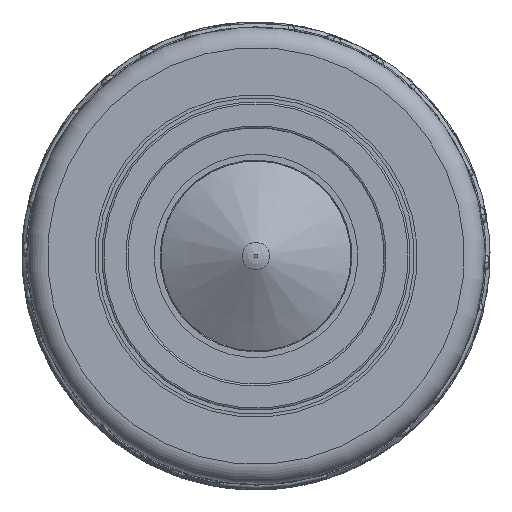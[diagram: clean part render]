
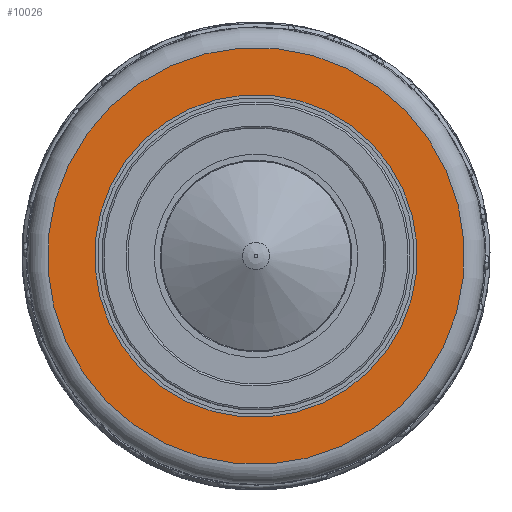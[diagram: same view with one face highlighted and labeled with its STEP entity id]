
A CAD part, front view. The second image highlights one B-rep face of the part: STEP entity #10026.
In plain terms, the highlighted planar face has unit normal (0, -1, 0).
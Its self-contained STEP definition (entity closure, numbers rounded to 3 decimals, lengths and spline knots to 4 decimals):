
#1914=FACE_BOUND('',#3121,.T.);
#2471=FACE_OUTER_BOUND('',#3120,.T.);
#3120=EDGE_LOOP('',(#8604));
#3121=EDGE_LOOP('',(#8605));
#3622=CIRCLE('',#10916,5.12);
#3623=CIRCLE('',#10917,3.965);
#4542=VERTEX_POINT('',#62511);
#4543=VERTEX_POINT('',#62513);
#5933=EDGE_CURVE('',#4542,#4542,#3622,.T.);
#5934=EDGE_CURVE('',#4543,#4543,#3623,.T.);
#8604=ORIENTED_EDGE('',*,*,#5933,.F.);
#8605=ORIENTED_EDGE('',*,*,#5934,.T.);
#8921=PLANE('',#10915);
#10026=ADVANCED_FACE('',(#2471,#1914),#8921,.T.);
#10915=AXIS2_PLACEMENT_3D('',#62510,#13226,#13227);
#10916=AXIS2_PLACEMENT_3D('',#62512,#13228,#13229);
#10917=AXIS2_PLACEMENT_3D('',#62514,#13230,#13231);
#13226=DIRECTION('center_axis',(0.,-1.,0.));
#13227=DIRECTION('ref_axis',(-0.562,0.,0.827));
#13228=DIRECTION('center_axis',(0.,1.,0.));
#13229=DIRECTION('ref_axis',(-0.827,0.,-0.562));
#13230=DIRECTION('center_axis',(0.,1.,0.));
#13231=DIRECTION('ref_axis',(-0.827,0.,-0.562));
#62510=CARTESIAN_POINT('Origin',(4.235,-5.9901,2.8774));
#62511=CARTESIAN_POINT('',(4.235,-5.9901,2.8774));
#62512=CARTESIAN_POINT('Origin',(0.,-5.9901,
0.));
#62513=CARTESIAN_POINT('',(3.2796,-5.9901,2.2283));
#62514=CARTESIAN_POINT('Origin',(0.,-5.9901,
0.));
